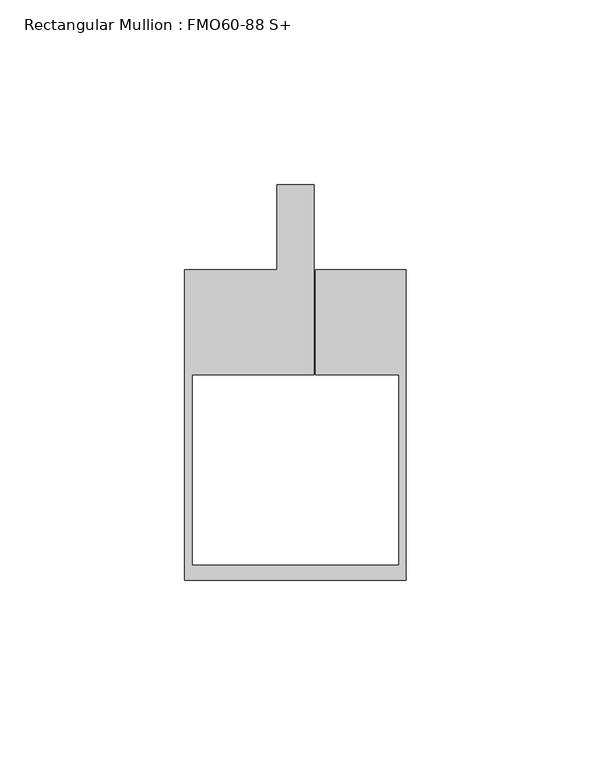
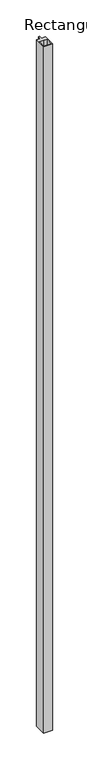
"""IFC4 building model written with IfcOpenShell, lengths in millimetres: member geometry, Rectangular Mullion : FMO60-88 S+."""

from ifc_helpers import new_model, si_unit, origin, place, context, project, spatial, faceted_brep, source, transform, mapped, element, save


def rectangular_mullion_fmo60_88_s_e3798255(model_context):
    return source(origin(), model_context, "Body", "Brep", [
        faceted_brep([(-5.0, 0.0, 0.0), (-29.9962608, 0.0, 0.0), (-29.9962608, -84.0058778, 0.0), (30.0, -84.0058778, 0.0), (30.0, 0.0, 0.0), (5.4997224, 0.0, 0.0), (5.4997224, -28.5014, 0.0), (28.0, -28.5014, 0.0), (28.0, -80.0058778, 0.0), (-28.0, -80.0058778, 0.0), (-28.0, -28.5014, 0.0), (4.9997224, -28.5014, 0.0), (4.9997224, 22.9914962, 0.0), (-5.0, 22.9914866, 0.0), (-5.0, 0.0, -5000.0), (-5.0, 22.9914866, -5000.0), (4.9997224, 22.9914866, -5000.0), (4.9997224, -28.5014, -5000.0), (-28.0, -28.5014, -5000.0), (-28.0, -80.0058778, -5000.0), (28.0, -80.0058778, -5000.0), (28.0, -28.5014, -5000.0), (5.4997224, -28.5014, -5000.0), (5.4997224, 0.0, -5000.0), (30.0, 0.0, -5000.0), (30.0, -84.0058778, -5000.0), (-29.9962608, -84.0058778, -5000.0), (-29.9962608, 0.0, -5000.0)], [[[0, 1, 2, 3, 4, 5, 6, 7, 8, 9, 10, 11, 12, 13]], [[14, 15, 16, 17, 18, 19, 20, 21, 22, 23, 24, 25, 26, 27]], [[0, 13, 15, 14]], [[1, 0, 14, 27]], [[2, 1, 27, 26]], [[3, 2, 26, 25]], [[4, 3, 25, 24]], [[5, 4, 24, 23]], [[6, 5, 23, 22]], [[7, 6, 22, 21]], [[8, 7, 21, 20]], [[9, 8, 20, 19]], [[10, 9, 19, 18]], [[11, 10, 18, 17]], [[12, 11, 17, 16]], [[13, 12, 16, 15]]]),
    ])


if __name__ == "__main__":
    model = new_model("IFC4")
    model_context = context("Model", 3, world=origin())
    ifc_project = project(units=[si_unit("LENGTHUNIT", "METRE", prefix="MILLI")], contexts=[model_context])
    site = spatial("IfcSite", under=ifc_project)
    building = spatial("IfcBuilding", under=site)
    placement = place(None, origin())
    rectangular_mullion_fmo60_88_s_shape = rectangular_mullion_fmo60_88_s_e3798255(model_context)
    element("IfcMember", 1, ObjectType="Rectangular Mullion : FMO60-88 S+", at=placement, inside=building, context=model_context, shape_type="MappedRepresentation", body=[
        mapped(rectangular_mullion_fmo60_88_s_shape, transform((0.0, 0.0, 0.0), x_axis=(1.0, 0.0, 0.0), y_axis=(0.0, 1.0, 0.0), z_axis=(0.0, 0.0, 1.0))),
    ])
    save(model, "model.ifc")
